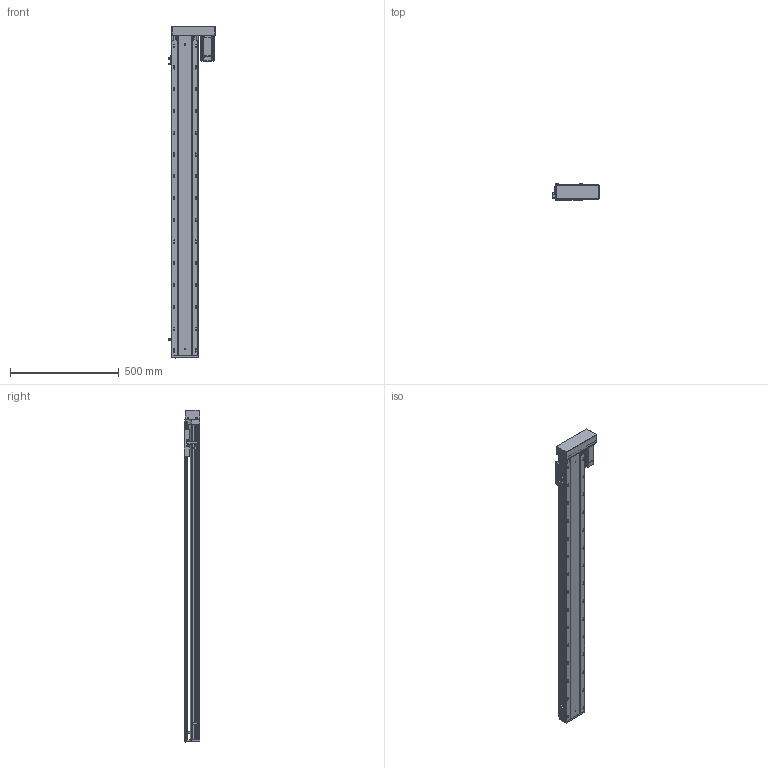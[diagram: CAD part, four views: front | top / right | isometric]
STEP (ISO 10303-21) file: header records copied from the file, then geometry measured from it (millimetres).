
FILE_DESCRIPTION (( 'STEP AP203' ), '1' );
FILE_NAME ('RY120-L2020-1000-RK.SLDASM_1250.step', '2021-03-12T07:30:11', ( '盈信电脑' ), ( '东莞市道滘镇水果街19号' ), 'SwSTEP 2.0', 'SolidWorks 2012', '' );
FILE_SCHEMA (( 'CONFIG_CONTROL_DESIGN' ));
Length unit declared in the file: millimetre
Products named in the file (15): RY120蛌殏萇儂欶; RY120-400W萇儂傷-酘衵殏_450; RY120-L2020-1000-RK.SLDASM_1250; 15; 侂狟400W侜督萇儂; RY120转拆电端丝杆支撑座(20丝杆，7002轴承); RY120酘殏萇儂假蚾啣; 覜茼ん672; 滅袉蝶18-10; 滅袉蝶18-24; RY120外置感应片(140共用）; RY120綴裔啣; RY120臏賑輸(20蹟譫); RY120-1000-RK蛌殏倰第奻裔啣_1250; RY120-1000-RK蛌殏倰第菁釱_1250
Assembly tree (17 placements, depth 4):
  RY120-L2020-1000-RK.SLDASM_1250
    RY120-1000-RK蛌殏倰第菁釱_1250
    RY120-1000-RK蛌殏倰第奻裔啣_1250
    RY120臏賑輸(20蹟譫)
    RY120綴裔啣
    覜茼ん672  x3
    滅袉蝶18-10
    滅袉蝶18-24  x2
    RY120外置感应片(140共用）
    RY120转拆电端丝杆支撑座(20丝杆，7002轴承)
    RY120-400W萇儂傷-酘衵殏_450
      RY120酘殏萇儂假蚾啣
      侂狟400W侜督萇儂
        15
      RY120蛌殏萇儂欶
Bounding box: 214.2 x 73 x 1525 mm (x, y, z)
Volume: 4105711.8 mm3; surface area: 1546089.3 mm2
Topology: 16 solids, 16 shells, 2852 faces, 7939 edges, 5076 vertices
Faces by surface type: plane 1296, cylinder 1176, cone 275, bspline 105
Entity records: 97255 total; most frequent: CARTESIAN_POINT 28783, ORIENTED_EDGE 14486, DIRECTION 13107, EDGE_CURVE 7243, VERTEX_POINT 4744, AXIS2_PLACEMENT_3D 4445, VECTOR 4217, LINE 4217
